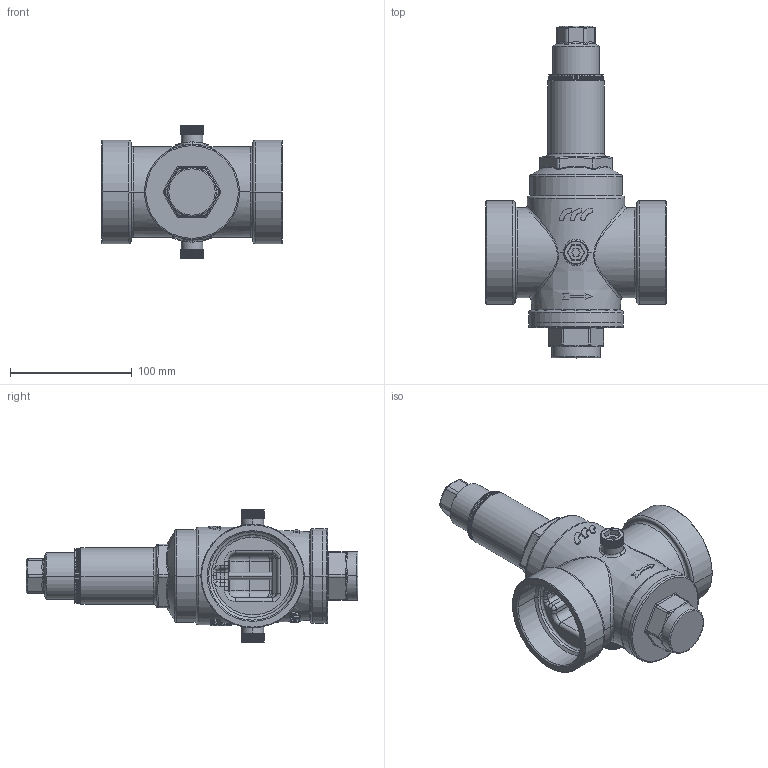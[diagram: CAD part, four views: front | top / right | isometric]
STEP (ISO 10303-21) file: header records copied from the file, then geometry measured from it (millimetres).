
FILE_DESCRIPTION((''),'2;1');
FILE_NAME('504065_ASM','2021-09-09T',('ufficiotecnico'),(''),'CREO PARAMETRIC BY PTC INC, 2016380','CREO PARAMETRIC BY PTC INC, 2016380','');
FILE_SCHEMA(('CONFIG_CONTROL_DESIGN'));
Products named in the file (9): 504065_AL; 504065_ALS_ASM; 490015_L; 504065_CL; 504065_F; 504065_BL; 504065_IL; 504065_D; 504065_ASM
Assembly tree (9 placements, depth 3):
  504065_ASM
    504065_ALS_ASM
      504065_AL
    490015_L  x2
    504065_CL
    504065_F
    504065_BL
    504065_IL
    504065_D
Bounding box: 148 x 272.6 x 109 mm (x, y, z)
Volume: 379723.2 mm3; surface area: 192594 mm2
Topology: 10 solids, 10 shells, 2093 faces, 5245 edges, 3230 vertices
Faces by surface type: plane 887, cylinder 538, torus 249, bspline 151, extrusion 115, cone 109, sphere 44
Entity records: 98684 total; most frequent: CARTESIAN_POINT 59968, ORIENTED_EDGE 8642, DIRECTION 7197, EDGE_CURVE 4321, AXIS2_PLACEMENT_3D 2767, VERTEX_POINT 2686, EDGE_LOOP 1779, FACE_OUTER_BOUND 1705
